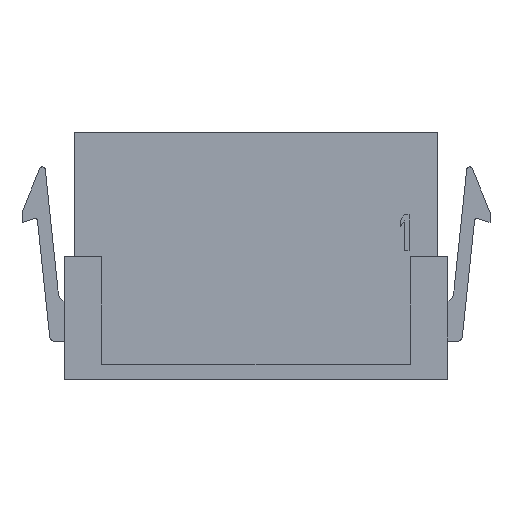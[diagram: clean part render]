
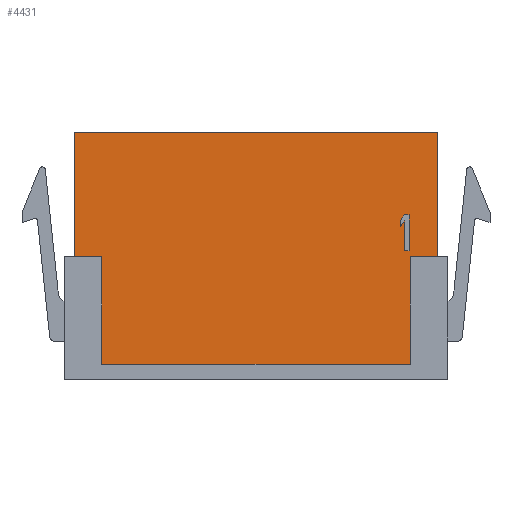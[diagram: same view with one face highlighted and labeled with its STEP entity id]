
A CAD part, top view. The second image highlights one B-rep face of the part: STEP entity #4431.
In plain terms, the highlighted planar face has unit normal (0, 0, 1).
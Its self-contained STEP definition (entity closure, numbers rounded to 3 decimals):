
#1=DIRECTION('',(0.,-1.,0.));
#2=VECTOR('',#1,8.51);
#3=CARTESIAN_POINT('',(-12.42,8.445,3.425));
#4=LINE('',#3,#2);
#49=DIRECTION('',(1.,0.,0.));
#50=VECTOR('',#49,1.83);
#51=CARTESIAN_POINT('',(-12.42,-0.065,3.425));
#52=LINE('',#51,#50);
#53=DIRECTION('',(1.,0.,0.));
#54=VECTOR('',#53,24.85);
#55=CARTESIAN_POINT('',(-12.42,8.445,3.425));
#56=LINE('',#55,#54);
#57=DIRECTION('',(-1.,0.,0.));
#58=VECTOR('',#57,1.84);
#59=CARTESIAN_POINT('',(12.43,-0.065,3.425));
#60=LINE('',#59,#58);
#61=DIRECTION('',(0.,1.,0.));
#62=VECTOR('',#61,7.36);
#63=CARTESIAN_POINT('',(10.59,-7.425,3.425));
#64=LINE('',#63,#62);
#65=DIRECTION('',(1.,0.,0.));
#66=VECTOR('',#65,21.18);
#67=CARTESIAN_POINT('',(-10.59,-7.425,3.425));
#68=LINE('',#67,#66);
#69=DIRECTION('',(0.,-1.,0.));
#70=VECTOR('',#69,7.36);
#71=CARTESIAN_POINT('',(-10.59,-0.065,3.425));
#72=LINE('',#71,#70);
#73=DIRECTION('',(0.,1.,0.));
#74=VECTOR('',#73,2.45);
#75=CARTESIAN_POINT('',(10.493,0.36,3.425));
#76=LINE('',#75,#74);
#77=DIRECTION('',(-1.,0.,0.));
#78=VECTOR('',#77,0.306);
#79=CARTESIAN_POINT('',(10.493,2.81,3.425));
#80=LINE('',#79,#78);
#81=DIRECTION('',(-0.643,-0.766,0.));
#82=VECTOR('',#81,0.476);
#83=CARTESIAN_POINT('',(10.186,2.81,3.425));
#84=LINE('',#83,#82);
#85=DIRECTION('',(0.,-1.,0.));
#86=VECTOR('',#85,0.417);
#87=CARTESIAN_POINT('',(9.88,2.445,3.425));
#88=LINE('',#87,#86);
#89=DIRECTION('',(0.643,0.766,0.));
#90=VECTOR('',#89,0.476);
#91=CARTESIAN_POINT('',(9.88,2.028,3.425));
#92=LINE('',#91,#90);
#93=DIRECTION('',(0.,-1.,0.));
#94=VECTOR('',#93,2.033);
#95=CARTESIAN_POINT('',(10.186,2.393,3.425));
#96=LINE('',#95,#94);
#97=DIRECTION('',(1.,0.,0.));
#98=VECTOR('',#97,0.306);
#99=CARTESIAN_POINT('',(10.186,0.36,3.425));
#100=LINE('',#99,#98);
#121=DIRECTION('',(0.,-1.,0.));
#122=VECTOR('',#121,8.51);
#123=CARTESIAN_POINT('',(12.43,8.445,3.425));
#124=LINE('',#123,#122);
#3276=CARTESIAN_POINT('',(-12.42,8.445,3.425));
#3278=VERTEX_POINT('',#3276);
#3280=CARTESIAN_POINT('',(12.43,8.445,3.425));
#3282=VERTEX_POINT('',#3280);
#3427=CARTESIAN_POINT('',(-12.42,-0.065,3.425));
#3428=CARTESIAN_POINT('',(-10.59,-0.065,3.425));
#3429=VERTEX_POINT('',#3427);
#3430=VERTEX_POINT('',#3428);
#3431=CARTESIAN_POINT('',(-10.59,-7.425,3.425));
#3432=VERTEX_POINT('',#3431);
#3433=CARTESIAN_POINT('',(10.59,-7.425,3.425));
#3434=VERTEX_POINT('',#3433);
#3435=CARTESIAN_POINT('',(10.59,-0.065,3.425));
#3436=VERTEX_POINT('',#3435);
#3437=CARTESIAN_POINT('',(12.43,-0.065,3.425));
#3438=VERTEX_POINT('',#3437);
#3833=CARTESIAN_POINT('',(10.493,0.36,3.425));
#3834=CARTESIAN_POINT('',(10.493,2.81,3.425));
#3835=VERTEX_POINT('',#3833);
#3836=VERTEX_POINT('',#3834);
#3837=CARTESIAN_POINT('',(10.186,2.81,3.425));
#3838=VERTEX_POINT('',#3837);
#3839=CARTESIAN_POINT('',(9.88,2.445,3.425));
#3840=VERTEX_POINT('',#3839);
#3841=CARTESIAN_POINT('',(9.88,2.028,3.425));
#3842=VERTEX_POINT('',#3841);
#3843=CARTESIAN_POINT('',(10.186,2.393,3.425));
#3844=VERTEX_POINT('',#3843);
#3845=CARTESIAN_POINT('',(10.186,0.36,3.425));
#3846=VERTEX_POINT('',#3845);
#4393=CARTESIAN_POINT('',(-12.42,8.445,3.425));
#4394=DIRECTION('',(0.,0.,1.));
#4395=DIRECTION('',(0.,-1.,0.));
#4396=AXIS2_PLACEMENT_3D('',#4393,#4394,#4395);
#4397=PLANE('',#4396);
#4399=ORIENTED_EDGE('',*,*,#4398,.F.);
#4400=ORIENTED_EDGE('',*,*,#4364,.F.);
#4402=ORIENTED_EDGE('',*,*,#4401,.T.);
#4404=ORIENTED_EDGE('',*,*,#4403,.T.);
#4406=ORIENTED_EDGE('',*,*,#4405,.T.);
#4408=ORIENTED_EDGE('',*,*,#4407,.F.);
#4410=ORIENTED_EDGE('',*,*,#4409,.F.);
#4412=ORIENTED_EDGE('',*,*,#4411,.F.);
#4413=EDGE_LOOP('',(#4399,#4400,#4402,#4404,#4406,#4408,#4410,#4412));
#4414=FACE_OUTER_BOUND('',#4413,.F.);
#4416=ORIENTED_EDGE('',*,*,#4415,.T.);
#4418=ORIENTED_EDGE('',*,*,#4417,.T.);
#4420=ORIENTED_EDGE('',*,*,#4419,.T.);
#4422=ORIENTED_EDGE('',*,*,#4421,.T.);
#4424=ORIENTED_EDGE('',*,*,#4423,.T.);
#4426=ORIENTED_EDGE('',*,*,#4425,.T.);
#4428=ORIENTED_EDGE('',*,*,#4427,.T.);
#4429=EDGE_LOOP('',(#4416,#4418,#4420,#4422,#4424,#4426,#4428));
#4430=FACE_BOUND('',#4429,.F.);
#4431=ADVANCED_FACE('',(#4414,#4430),#4397,.T.);
#4364=EDGE_CURVE('',#3278,#3429,#4,.T.);
#4398=EDGE_CURVE('',#3429,#3430,#52,.T.);
#4401=EDGE_CURVE('',#3278,#3282,#56,.T.);
#4403=EDGE_CURVE('',#3282,#3438,#124,.T.);
#4405=EDGE_CURVE('',#3438,#3436,#60,.T.);
#4407=EDGE_CURVE('',#3434,#3436,#64,.T.);
#4409=EDGE_CURVE('',#3432,#3434,#68,.T.);
#4411=EDGE_CURVE('',#3430,#3432,#72,.T.);
#4415=EDGE_CURVE('',#3835,#3836,#76,.T.);
#4417=EDGE_CURVE('',#3836,#3838,#80,.T.);
#4419=EDGE_CURVE('',#3838,#3840,#84,.T.);
#4421=EDGE_CURVE('',#3840,#3842,#88,.T.);
#4423=EDGE_CURVE('',#3842,#3844,#92,.T.);
#4425=EDGE_CURVE('',#3844,#3846,#96,.T.);
#4427=EDGE_CURVE('',#3846,#3835,#100,.T.);
